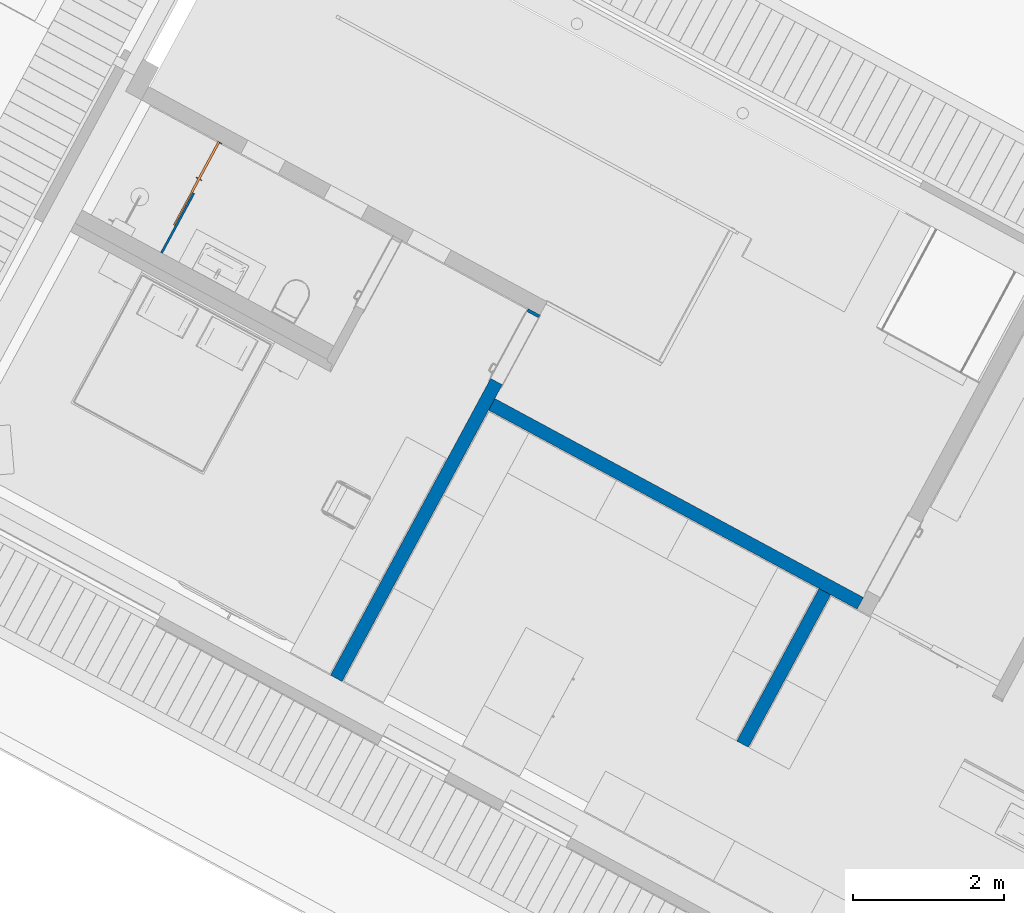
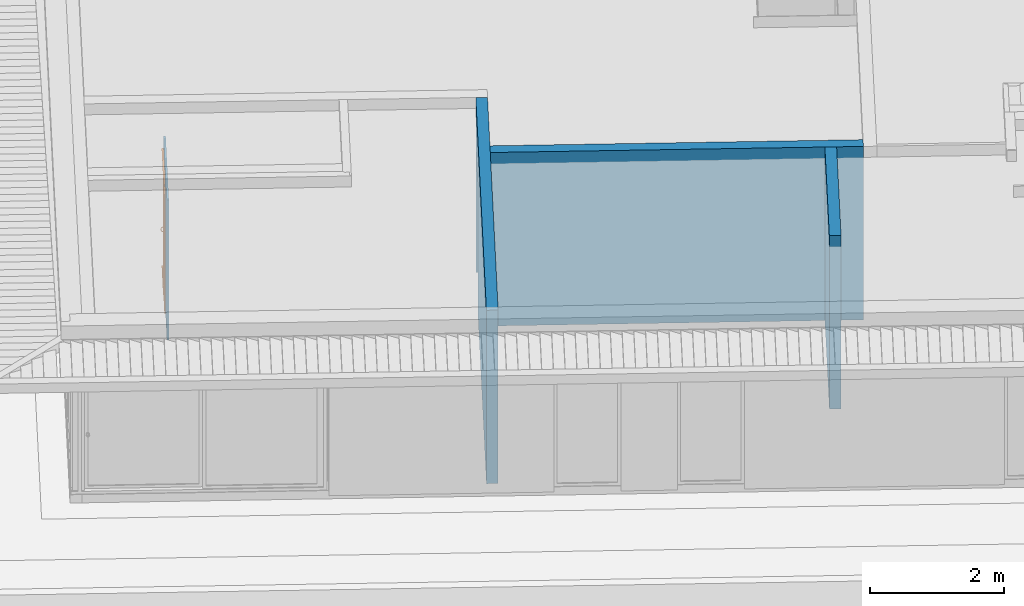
# One storey, part 8 of 48: 4 walls, 1 proxy, 2 openings.
"""IFC2X3 building model written with IfcOpenShell, lengths in metres."""

from ifc_helpers import new_model, entity, si_unit, converted_unit, derived_unit, money_unit, direction, frame, origin_with_axes, origin_2d_with_axis, place, context, subcontext, project, spatial, rectangle, extrude, faceted_brep, material, type_object, element, fill, save


model = new_model("IFC2X3")

# Units and contexts
model_context = context("Model", 3, precision=1e-05, world=origin_with_axes(), true_north=direction((0.0, 1.0)))
body_context = subcontext(model_context, "Body", "Model", "MODEL_VIEW")
ifc_project = project(units=[si_unit("LENGTHUNIT", "METRE"), si_unit("AREAUNIT", "SQUARE_METRE"), si_unit("VOLUMEUNIT", "CUBIC_METRE"), converted_unit("PLANEANGLEUNIT", "DEGREE", entity("IfcPlaneAngleMeasure", 0.0174532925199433), si_unit("PLANEANGLEUNIT", "RADIAN"), dimensions=[0, 0, 0, 0, 0, 0, 0]), money_unit("EUR"), converted_unit("TIMEUNIT", "Year", entity("IfcTimeMeasure", 31556926.0), si_unit("TIMEUNIT", "SECOND"), dimensions=[0, 0, 1, 0, 0, 0, 0]), si_unit("MASSUNIT", "GRAM", prefix="KILO"), si_unit("THERMODYNAMICTEMPERATUREUNIT", "DEGREE_CELSIUS"), si_unit("LUMINOUSINTENSITYUNIT", "LUMEN"), si_unit("ENERGYUNIT", "JOULE", prefix="MEGA"), derived_unit("THERMALCONDUCTANCEUNIT", [(si_unit("POWERUNIT", "WATT"), 1), (si_unit("LENGTHUNIT", "METRE"), -1), (si_unit("THERMODYNAMICTEMPERATUREUNIT", "KELVIN"), -1)]), derived_unit("SPECIFICHEATCAPACITYUNIT", [(si_unit("ENERGYUNIT", "JOULE"), 1), (si_unit("MASSUNIT", "GRAM", prefix="KILO"), -1), (si_unit("THERMODYNAMICTEMPERATUREUNIT", "KELVIN"), -1)]), derived_unit("MASSDENSITYUNIT", [(si_unit("MASSUNIT", "GRAM", prefix="KILO"), 1), (si_unit("VOLUMEUNIT", "CUBIC_METRE"), -1)])], contexts=[model_context])

# Site, building, storey
site_placement = place(None, frame((-3.949935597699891, 1.740105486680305, 0.0), z_axis=(0.0, 0.0, 1.0), x_axis=(0.8799804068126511, -0.475009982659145, 0.0)))
site = spatial("IfcSite", under=ifc_project, at=site_placement, Name="Gelände", CompositionType="ELEMENT")
building_placement = place(site_placement, origin_with_axes())
building = spatial("IfcBuilding", under=site, at=building_placement, Name="Gebäude", CompositionType="ELEMENT")
storey_placement = place(building_placement, frame((0.0, 0.0, 4.55), z_axis=(0.0, 0.0, 1.0), x_axis=(1.0, 0.0, 0.0)))
storey = spatial("IfcBuildingStorey", under=building, at=storey_placement, Name="Staffelgeschoss", CompositionType="ELEMENT", Elevation=4.55)

# Walls
ifc_material_1 = material(Name="_SIWH - MW Kalksandstein")
wall_type_1 = type_object("IfcWallType", Name="_SIWH - WI | KS 17,5 | 17,5cm 175", PredefinedType="NOTDEFINED")
wall_1_placement = place(storey_placement, frame((16.76849488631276, 3.418060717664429, -0.1900000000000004), z_axis=(0.0, 0.0, 1.0), x_axis=(0.0, 1.0, 0.0)))
element("IfcWall", 1, at=wall_1_placement, inside=storey, type_object=wall_type_1, material=ifc_material_1, Name="I-Wand014", context=body_context, shape_type="Brep", body=[
    faceted_brep([(2.300000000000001, 0.1750000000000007, 0.0), (2.300000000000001, 0.0, 0.0), (0.0, 0.0, 0.0), (0.0, 0.1750000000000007, 0.0), (2.300000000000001, 0.1750000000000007, 3.154), (2.300000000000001, 0.0, 3.154), (0.0, 0.0, 3.154), (0.0, 0.1750000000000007, 3.154)], [[[0, 1, 2, 3]], [[1, 0, 4, 5]], [[1, 5, 6, 2]], [[7, 3, 2, 6]], [[4, 0, 3, 7]], [[5, 4, 7, 6]]]),
])
wall_2_placement = place(storey_placement, frame((11.43319561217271, 5.893060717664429, -0.1900000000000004), z_axis=(0.0, 0.0, 1.0), x_axis=(1.0, 0.0, 0.0)))
element("IfcWall", 2, at=wall_2_placement, inside=storey, type_object=wall_type_1, material=ifc_material_1, Name="I-Wand015", context=body_context, shape_type="Brep", body=[
    faceted_brep([(5.734297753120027, -0.1749999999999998, 3.154), (5.734297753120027, 0.0, 3.154), (0.1750000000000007, 0.0, 3.154), (0.1750000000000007, -0.1749999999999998, 3.154), (5.734297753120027, -0.1749999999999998, 0.0), (5.734297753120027, 0.0, 0.0), (0.1750000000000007, 0.0, 0.0), (0.1750000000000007, -0.1749999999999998, 0.0)], [[[0, 1, 2, 3]], [[1, 0, 4, 5]], [[1, 5, 6, 2]], [[7, 3, 2, 6]], [[4, 0, 3, 7]], [[5, 4, 7, 6]]]),
])

# Wall, opening
wall_3_placement = place(storey_placement, frame((11.43319561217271, 7.153035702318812, -0.1900000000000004), z_axis=(0.0, 0.0, 1.0), x_axis=(0.0, -1.0, 0.0)))
wall_3 = element("IfcWall", 3, at=wall_3_placement, inside=storey, type_object=wall_type_1, material=ifc_material_1, Name="I-Wand016", context=body_context, shape_type="Brep", body=[
    faceted_brep([(1.051973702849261, 0.1749999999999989, 0.1900000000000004), (1.051973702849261, 0.1749999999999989, 2.325), (0.04197370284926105, 0.1749999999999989, 2.325), (0.04197370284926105, 0.1749999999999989, 0.1900000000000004), (0.04197370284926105, 0.1750000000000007, 0.0), (0.0, 0.1750000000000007, 0.0), (0.0, 0.1750000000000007, 3.154), (5.528048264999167, 0.1749999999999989, 3.154), (5.528048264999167, 0.1749999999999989, 0.0), (1.051973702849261, 0.1750000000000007, 0.0), (1.051973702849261, 0.0, 0.1900000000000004), (1.051973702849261, 0.0, 2.325), (0.04197370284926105, 0.0, 2.325), (0.04197370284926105, 0.0, 0.1900000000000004), (0.04197370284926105, 0.0, 0.0), (0.0, 0.0, 0.0), (0.0, 0.0, 3.154), (5.528048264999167, 0.0, 3.154), (5.528048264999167, 0.0, 0.0), (1.051973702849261, 0.0, 0.0)], [[[0, 1, 2, 3, 4, 5, 6, 7, 8, 9]], [[1, 0, 10, 11]], [[2, 1, 11, 12]], [[3, 2, 12, 13]], [[3, 13, 14, 4]], [[4, 14, 15, 5]], [[6, 5, 15, 16]], [[16, 17, 7, 6]], [[18, 8, 7, 17]], [[19, 9, 8, 18]], [[10, 0, 9, 19]], [[11, 10, 19, 18, 17, 16, 15, 14, 13, 12]]]),
])
opening_1_placement = place(wall_3_placement, frame((0.5469737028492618, 0.0, 0.1900000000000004), z_axis=(0.0, 0.0, 1.0), x_axis=(1.0, 0.0, 0.0)))
element("IfcOpeningElement", 4, at=opening_1_placement, cuts=wall_3, Name="Tür-017", context=body_context, shape_type="SweptSolid", body=[
    extrude(rectangle(XDim=1.01, YDim=2.135, at=origin_2d_with_axis()), frame((0.0, 0.1750000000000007, 1.0675), z_axis=(0.0, -1.0, 0.0), x_axis=(-1.0, 0.0, 0.0)), (0.0, 0.0, 1.0), 0.5249999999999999),
])

# Wall, opening, proxy
ifc_material_2 = material(Name="Glas, Normalglas-50% durchlässig")
wall_type_2 = type_object("IfcWallType", Name="Glas, Normalglas-50% durchlässig 30", PredefinedType="NOTDEFINED")
wall_4_placement = place(storey_placement, frame((6.782480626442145, 5.493065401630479, -0.2999999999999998), z_axis=(0.0, 0.0, 1.0), x_axis=(0.0, 1.0, 0.0)))
wall_4 = element("IfcWall", 5, at=wall_4_placement, inside=storey, type_object=wall_type_2, material=ifc_material_2, Name="L-Wand033", context=body_context, shape_type="Brep", body=[
    faceted_brep([(1.659970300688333, 0.0, 0.2999999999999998), (1.659970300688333, -0.03000000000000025, 0.2999999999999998), (1.659970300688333, -0.03000000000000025, 0.1100000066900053), (1.659970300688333, 0.0, 0.1100000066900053), (1.644994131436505, -0.03000000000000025, 0.2999999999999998), (1.644994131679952, 0.0, 0.2999999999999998), (1.644994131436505, -0.03000000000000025, 0.1099999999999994), (1.644994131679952, 0.0, 0.1099999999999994)], [[[0, 1, 2, 3]], [[4, 1, 0, 5]], [[1, 4, 6, 2]], [[7, 3, 2, 6]], [[5, 0, 3, 7]], [[4, 5, 7, 6]]]),
    faceted_brep([(0.8999703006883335, -0.03000000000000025, 0.2999999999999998), (0.8999703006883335, -0.03000000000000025, 2.435), (1.659970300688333, -0.03000000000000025, 2.435), (1.659970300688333, -0.03000000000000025, 2.654999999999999), (0.0, -0.03000000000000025, 2.654999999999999), (0.0, -0.03000000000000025, 0.1100000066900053), (0.8999703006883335, -0.03000000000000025, 0.1099999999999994), (0.8999703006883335, 0.0, 0.2999999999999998), (0.8999703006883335, 0.0, 2.435), (1.659970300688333, 0.0, 2.435), (1.659970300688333, 0.0, 2.654999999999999), (0.0, 0.0, 2.654999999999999), (0.0, 0.0, 0.1100000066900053), (0.8999703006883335, 0.0, 0.1099999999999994)], [[[0, 1, 2, 3, 4, 5, 6]], [[1, 0, 7, 8]], [[9, 2, 1, 8]], [[2, 9, 10, 3]], [[3, 10, 11, 4]], [[5, 4, 11, 12]], [[6, 5, 12, 13]], [[7, 0, 6, 13]], [[8, 7, 13, 12, 11, 10, 9]]]),
])
opening_2_placement = place(wall_4_placement, frame((1.279970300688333, 0.0, 0.2999999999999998), z_axis=(0.0, 0.0, 1.0), x_axis=(1.0, 0.0, 0.0)))
opening_2 = element("IfcOpeningElement", 6, at=opening_2_placement, cuts=wall_4, Name="Tür-017", context=body_context, shape_type="Brep", body=[
    faceted_brep([(-0.3799999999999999, 0.001000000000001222, 2.105), (-0.3799999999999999, 0.0, 2.105), (-0.3799999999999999, 0.0, 0.0), (-0.3799999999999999, -0.03100000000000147, 0.0), (-0.3799999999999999, -0.03100000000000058, 2.135), (-0.3799999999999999, 0.001000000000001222, 2.135), (-0.3799999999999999, 0.03000000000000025, 2.105), (-1.28, 0.03000000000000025, 2.105), (-1.28, 0.0, 2.105), (-1.28, 0.0, 0.0), (-0.3799999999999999, 0.001000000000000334, 0.0), (0.3799999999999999, 0.001000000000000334, 0.0), (0.3799999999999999, -0.03100000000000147, 0.0), (0.3799999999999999, -0.03100000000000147, 2.135), (0.3799999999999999, 0.001000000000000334, 2.135), (-0.3799999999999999, 0.03000000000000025, 0.0), (-1.28, 0.03000000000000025, 0.0)], [[[0, 1, 2, 3, 4, 5]], [[1, 0, 6, 7, 8]], [[2, 1, 8, 9]], [[2, 10, 11, 12, 3]], [[4, 3, 12, 13]], [[14, 5, 4, 13]], [[10, 0, 5, 14, 11]], [[0, 10, 15, 6]], [[7, 6, 15, 16]], [[8, 7, 16, 9]], [[10, 2, 9, 16, 15]], [[11, 14, 13, 12]]]),
])
building_element_proxy_type = type_object("IfcBuildingElementProxyType", Name="Schiebetür 02 1-Fl 26", PredefinedType="NOTDEFINED")
proxy_placement = place(opening_2_placement, frame((0.3799999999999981, 0.0, 0.0), z_axis=(0.0, 0.0, 1.0), x_axis=(-1.0, 0.0, 0.0)))
proxy = element("IfcBuildingElementProxy", 7, at=proxy_placement, inside=storey, type_object=building_element_proxy_type, Name="Tür-017", context=body_context, shape_type="Brep", body=[
    faceted_brep([(4.999999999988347e-05, 0.0, 0.0), (4.999999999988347e-05, 0.0, 0.003000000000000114), (0.7599499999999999, 0.0, 0.003000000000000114), (0.7599499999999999, 0.0, 0.0), (4.999999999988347e-05, -0.03000000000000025, 0.0), (4.999999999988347e-05, -0.03000000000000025, 0.003000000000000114), (0.7599499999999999, -0.03000000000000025, 0.003000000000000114), (0.7599499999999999, -0.03000000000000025, 0.0)], [[[0, 1, 2, 3]], [[0, 4, 5, 1]], [[1, 5, 6, 2]], [[3, 2, 6, 7]], [[4, 0, 3, 7]], [[5, 4, 7, 6]]]),
    faceted_brep([(4.999999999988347e-05, 0.0, 2.134899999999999), (4.999999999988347e-05, -0.03000000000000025, 2.134899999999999), (0.7599499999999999, -0.03000000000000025, 2.134899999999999), (0.7599499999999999, 0.0, 2.134899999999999), (4.999999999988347e-05, 0.0, 2.124899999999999), (4.999999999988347e-05, -0.003000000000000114, 2.124899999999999), (4.999999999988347e-05, -0.003000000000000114, 2.131899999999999), (4.999999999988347e-05, -0.02700000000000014, 2.131899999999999), (4.999999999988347e-05, -0.02700000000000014, 2.124899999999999), (4.999999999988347e-05, -0.03000000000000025, 2.124899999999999), (0.7599499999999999, -0.03000000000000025, 2.124899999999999), (0.7599499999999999, -0.02700000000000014, 2.124899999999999), (0.7599499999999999, -0.02700000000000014, 2.131899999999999), (0.7599499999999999, -0.003000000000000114, 2.131899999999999), (0.7599499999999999, -0.003000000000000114, 2.124899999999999), (0.7599499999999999, 0.0, 2.124899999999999)], [[[0, 1, 2, 3]], [[0, 4, 5, 6, 7, 8, 9, 1]], [[1, 9, 10, 2]], [[3, 2, 10, 11, 12, 13, 14, 15]], [[4, 0, 3, 15]], [[5, 4, 15, 14]], [[6, 5, 14, 13]], [[7, 6, 13, 12]], [[8, 7, 12, 11]], [[9, 8, 11, 10]]]),
    faceted_brep([(1.25995, -0.004999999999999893, 0.1029999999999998), (1.25995, -0.02500000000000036, 0.1029999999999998), (1.15995, -0.02500000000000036, 0.1029999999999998), (1.15995, -0.004999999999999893, 0.1029999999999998), (1.25995, -0.004999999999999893, 2.031899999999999), (1.25995, -0.02500000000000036, 2.031899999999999), (1.15995, -0.02500000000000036, 2.031899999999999), (1.15995, -0.004999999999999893, 2.031899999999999)], [[[0, 1, 2, 3]], [[4, 5, 1, 0]], [[1, 5, 6, 2]], [[3, 2, 6, 7]], [[0, 3, 7, 4]], [[7, 6, 5, 4]]]),
    faceted_brep([(0.5000499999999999, -0.004999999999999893, 2.031899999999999), (0.5000499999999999, -0.02500000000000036, 2.031899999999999), (0.6000499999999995, -0.02500000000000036, 2.031899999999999), (0.6000499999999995, -0.004999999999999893, 2.031899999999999), (0.5000499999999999, -0.004999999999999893, 0.1029999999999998), (0.5000499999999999, -0.02500000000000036, 0.1029999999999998), (0.6000499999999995, -0.02500000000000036, 0.1029999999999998), (0.6000499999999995, -0.004999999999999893, 0.1029999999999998)], [[[0, 1, 2, 3]], [[4, 5, 1, 0]], [[1, 5, 6, 2]], [[3, 2, 6, 7]], [[0, 3, 7, 4]], [[7, 6, 5, 4]]]),
    faceted_brep([(0.5000499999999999, -0.004999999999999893, 0.003000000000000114), (0.5000499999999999, -0.02500000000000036, 0.003000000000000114), (0.5000499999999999, -0.02500000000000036, 0.1029999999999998), (0.5000499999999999, -0.004999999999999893, 0.1029999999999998), (1.25995, -0.004999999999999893, 0.003000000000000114), (1.25995, -0.02500000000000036, 0.003000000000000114), (1.25995, -0.02500000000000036, 0.1029999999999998), (1.15995, -0.02500000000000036, 0.1029999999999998), (0.6000499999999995, -0.02500000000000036, 0.1029999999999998), (0.6000499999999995, -0.004999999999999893, 0.1029999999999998), (1.15995, -0.004999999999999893, 0.1029999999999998), (1.25995, -0.004999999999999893, 0.1029999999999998)], [[[0, 1, 2, 3]], [[4, 5, 1, 0]], [[1, 5, 6, 7, 8, 2]], [[3, 2, 8, 9]], [[0, 3, 9, 10, 11, 4]], [[11, 6, 5, 4]], [[10, 7, 6, 11]], [[9, 8, 7, 10]]]),
    faceted_brep([(1.25995, -0.004999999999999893, 2.131899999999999), (1.25995, -0.02500000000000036, 2.131899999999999), (1.25995, -0.02500000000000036, 2.031899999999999), (1.25995, -0.004999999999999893, 2.031899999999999), (0.5000499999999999, -0.004999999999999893, 2.131899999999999), (0.5000499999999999, -0.02500000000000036, 2.131899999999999), (0.5000499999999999, -0.02500000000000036, 2.031899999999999), (0.6000499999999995, -0.02500000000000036, 2.031899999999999), (1.15995, -0.02500000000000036, 2.031899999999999), (1.15995, -0.004999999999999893, 2.031899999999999), (0.6000499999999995, -0.004999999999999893, 2.031899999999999), (0.5000499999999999, -0.004999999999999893, 2.031899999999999)], [[[0, 1, 2, 3]], [[4, 5, 1, 0]], [[1, 5, 6, 7, 8, 2]], [[3, 2, 8, 9]], [[0, 3, 9, 10, 11, 4]], [[11, 6, 5, 4]], [[10, 7, 6, 11]], [[9, 8, 7, 10]]]),
    faceted_brep([(1.15995, -0.01149999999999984, 0.1029999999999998), (1.15995, -0.01850000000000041, 0.1029999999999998), (0.6000499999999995, -0.01850000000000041, 0.1029999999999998), (0.6000499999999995, -0.01149999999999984, 0.1029999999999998), (1.15995, -0.01149999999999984, 2.0379), (1.15995, -0.01850000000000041, 2.0379), (0.6000499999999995, -0.01850000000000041, 2.0379), (0.6000499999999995, -0.01149999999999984, 2.0379)], [[[0, 1, 2, 3]], [[4, 5, 1, 0]], [[1, 5, 6, 2]], [[3, 2, 6, 7]], [[0, 3, 7, 4]], [[7, 6, 5, 4]]]),
    faceted_brep([(0.56705, -0.04000000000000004, 1.088980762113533), (0.56705, -0.02500000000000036, 1.093), (0.5661121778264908, -0.02500000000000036, 1.0965), (0.5661121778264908, -0.0417500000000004, 1.092011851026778), (0.5661121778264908, -0.03824999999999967, 1.085949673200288), (0.5661121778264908, -0.02500000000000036, 1.0895), (0.5635500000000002, -0.02500000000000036, 1.086937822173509), (0.5600499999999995, -0.02500000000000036, 1.085999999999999), (0.5565499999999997, -0.02500000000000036, 1.086937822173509), (0.5539878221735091, -0.02500000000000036, 1.0895), (0.5530499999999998, -0.02500000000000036, 1.093), (0.5539878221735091, -0.02500000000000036, 1.0965), (0.5565499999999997, -0.02500000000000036, 1.099062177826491), (0.5600499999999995, -0.02500000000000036, 1.1), (0.5635500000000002, -0.02500000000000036, 1.099062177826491), (0.5635500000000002, -0.0430310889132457, 1.094230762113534), (0.56705, -0.0509807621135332, 1.078), (0.5661121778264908, -0.05401185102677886, 1.07975), (0.5635500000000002, -0.03696891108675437, 1.083730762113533), (0.5661121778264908, -0.04794967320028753, 1.07625), (0.5600499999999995, -0.0365000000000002, 1.082918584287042), (0.5565499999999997, -0.03696891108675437, 1.083730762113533), (0.5539878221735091, -0.03824999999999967, 1.085949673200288), (0.5530499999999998, -0.04000000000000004, 1.088980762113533), (0.5539878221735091, -0.0417500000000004, 1.092011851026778), (0.5565499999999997, -0.0430310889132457, 1.094230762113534), (0.5600499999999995, -0.04349999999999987, 1.095042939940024), (0.5635500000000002, -0.05623076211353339, 1.081031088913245), (0.56705, -0.05499999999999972, 1.063), (0.5661121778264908, -0.05850000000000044, 1.063), (0.5635500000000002, -0.045730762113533, 1.074968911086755), (0.5661121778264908, -0.05149999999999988, 1.063), (0.5600499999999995, -0.04491858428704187, 1.0745), (0.5565499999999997, -0.045730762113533, 1.074968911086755), (0.5539878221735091, -0.04794967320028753, 1.07625), (0.5530499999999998, -0.0509807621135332, 1.078), (0.5539878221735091, -0.05401185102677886, 1.07975), (0.5565499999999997, -0.05623076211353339, 1.081031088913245), (0.5600499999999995, -0.05704293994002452, 1.0815), (0.5635500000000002, -0.06106217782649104, 1.063), (0.5600499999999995, -0.06200000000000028, 1.063), (0.5565499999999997, -0.06106217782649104, 1.063), (0.5539878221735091, -0.05850000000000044, 1.063), (0.5530499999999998, -0.05499999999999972, 1.063), (0.5539878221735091, -0.05149999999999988, 1.063), (0.5565499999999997, -0.04893782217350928, 1.063), (0.5600499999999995, -0.04800000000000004, 1.063), (0.5635500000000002, -0.04893782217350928, 1.063)], [[[0, 1, 2, 3]], [[4, 5, 1, 0]], [[1, 5, 6, 7, 8, 9, 10, 11, 12, 13, 14, 2]], [[3, 2, 14, 15]], [[16, 0, 3, 17]], [[18, 6, 5, 4]], [[19, 4, 0, 16]], [[20, 7, 6, 18]], [[21, 8, 7, 20]], [[22, 9, 8, 21]], [[23, 10, 9, 22]], [[24, 11, 10, 23]], [[25, 12, 11, 24]], [[26, 13, 12, 25]], [[15, 14, 13, 26]], [[17, 3, 15, 27]], [[28, 16, 17, 29]], [[30, 18, 4, 19]], [[31, 19, 16, 28]], [[32, 20, 18, 30]], [[33, 21, 20, 32]], [[34, 22, 21, 33]], [[35, 23, 22, 34]], [[36, 24, 23, 35]], [[37, 25, 24, 36]], [[38, 26, 25, 37]], [[27, 15, 26, 38]], [[29, 17, 27, 39]], [[28, 29, 39, 40, 41, 42, 43, 44, 45, 46, 47, 31]], [[47, 30, 19, 31]], [[46, 32, 30, 47]], [[45, 33, 32, 46]], [[44, 34, 33, 45]], [[43, 35, 34, 44]], [[42, 36, 35, 43]], [[41, 37, 36, 42]], [[40, 38, 37, 41]], [[39, 27, 38, 40]]]),
    faceted_brep([(0.5530499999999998, -0.04000000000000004, 1.017019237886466), (0.5530499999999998, -0.02500000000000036, 1.013), (0.5539878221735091, -0.02500000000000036, 1.0095), (0.5539878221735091, -0.0417500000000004, 1.013988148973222), (0.5539878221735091, -0.03824999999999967, 1.020050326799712), (0.5539878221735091, -0.02500000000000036, 1.0165), (0.5565499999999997, -0.02500000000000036, 1.019062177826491), (0.5600499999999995, -0.02500000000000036, 1.02), (0.5635500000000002, -0.02500000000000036, 1.019062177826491), (0.5661121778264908, -0.02500000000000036, 1.0165), (0.56705, -0.02500000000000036, 1.013), (0.5661121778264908, -0.02500000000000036, 1.0095), (0.5635500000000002, -0.02500000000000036, 1.006937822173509), (0.5600499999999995, -0.02500000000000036, 1.006), (0.5565499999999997, -0.02500000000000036, 1.006937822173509), (0.5565499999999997, -0.0430310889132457, 1.011769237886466), (0.5530499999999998, -0.0509807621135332, 1.028), (0.5539878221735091, -0.05401185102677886, 1.02625), (0.5565499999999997, -0.03696891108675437, 1.022269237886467), (0.5539878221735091, -0.04794967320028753, 1.02975), (0.5600499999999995, -0.0365000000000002, 1.023081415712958), (0.5635500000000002, -0.03696891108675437, 1.022269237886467), (0.5661121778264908, -0.03824999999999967, 1.020050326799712), (0.56705, -0.04000000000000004, 1.017019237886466), (0.5661121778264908, -0.0417500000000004, 1.013988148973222), (0.5635500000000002, -0.0430310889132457, 1.011769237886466), (0.5600499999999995, -0.04349999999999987, 1.010957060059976), (0.5565499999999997, -0.05623076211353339, 1.024968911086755), (0.5530499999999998, -0.05499999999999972, 1.043), (0.5539878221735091, -0.05850000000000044, 1.043), (0.5565499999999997, -0.045730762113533, 1.031031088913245), (0.5539878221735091, -0.05149999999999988, 1.043), (0.5600499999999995, -0.04491858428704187, 1.0315), (0.5635500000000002, -0.045730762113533, 1.031031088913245), (0.5661121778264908, -0.04794967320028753, 1.02975), (0.56705, -0.0509807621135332, 1.028), (0.5661121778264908, -0.05401185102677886, 1.02625), (0.5635500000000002, -0.05623076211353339, 1.024968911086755), (0.5600499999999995, -0.05704293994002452, 1.0245), (0.5565499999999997, -0.06106217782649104, 1.043), (0.5600499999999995, -0.06200000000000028, 1.043), (0.5635500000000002, -0.06106217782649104, 1.043), (0.5661121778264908, -0.05850000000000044, 1.043), (0.56705, -0.05499999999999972, 1.043), (0.5661121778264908, -0.05149999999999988, 1.043), (0.5635500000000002, -0.04893782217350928, 1.043), (0.5600499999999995, -0.04800000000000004, 1.043), (0.5565499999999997, -0.04893782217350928, 1.043)], [[[0, 1, 2, 3]], [[4, 5, 1, 0]], [[1, 5, 6, 7, 8, 9, 10, 11, 12, 13, 14, 2]], [[3, 2, 14, 15]], [[16, 0, 3, 17]], [[18, 6, 5, 4]], [[19, 4, 0, 16]], [[20, 7, 6, 18]], [[21, 8, 7, 20]], [[22, 9, 8, 21]], [[23, 10, 9, 22]], [[24, 11, 10, 23]], [[25, 12, 11, 24]], [[26, 13, 12, 25]], [[15, 14, 13, 26]], [[17, 3, 15, 27]], [[28, 16, 17, 29]], [[30, 18, 4, 19]], [[31, 19, 16, 28]], [[32, 20, 18, 30]], [[33, 21, 20, 32]], [[34, 22, 21, 33]], [[35, 23, 22, 34]], [[36, 24, 23, 35]], [[37, 25, 24, 36]], [[38, 26, 25, 37]], [[27, 15, 26, 38]], [[29, 17, 27, 39]], [[28, 29, 39, 40, 41, 42, 43, 44, 45, 46, 47, 31]], [[47, 30, 19, 31]], [[46, 32, 30, 47]], [[45, 33, 32, 46]], [[44, 34, 33, 45]], [[43, 35, 34, 44]], [[42, 36, 35, 43]], [[41, 37, 36, 42]], [[40, 38, 37, 41]], [[39, 27, 38, 40]]]),
    faceted_brep([(0.56705, -0.05499999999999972, 1.043), (0.5661121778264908, -0.05149999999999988, 1.043), (0.5661121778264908, -0.05149999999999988, 1.063), (0.56705, -0.05499999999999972, 1.063), (0.5661121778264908, -0.05850000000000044, 1.043), (0.5635500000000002, -0.06106217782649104, 1.043), (0.5600499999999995, -0.06200000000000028, 1.043), (0.5565499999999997, -0.06106217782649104, 1.043), (0.5539878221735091, -0.05850000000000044, 1.043), (0.5530499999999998, -0.05499999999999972, 1.043), (0.5539878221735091, -0.05149999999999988, 1.043), (0.5565499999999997, -0.04893782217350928, 1.043), (0.5600499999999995, -0.04800000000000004, 1.043), (0.5635500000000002, -0.04893782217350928, 1.043), (0.5635500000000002, -0.04893782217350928, 1.063), (0.5600499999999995, -0.04800000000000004, 1.063), (0.5565499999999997, -0.04893782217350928, 1.063), (0.5539878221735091, -0.05149999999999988, 1.063), (0.5530499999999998, -0.05499999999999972, 1.063), (0.5539878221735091, -0.05850000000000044, 1.063), (0.5565499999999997, -0.06106217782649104, 1.063), (0.5600499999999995, -0.06200000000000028, 1.063), (0.5635500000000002, -0.06106217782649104, 1.063), (0.5661121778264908, -0.05850000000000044, 1.063)], [[[0, 1, 2, 3]], [[0, 4, 5, 6, 7, 8, 9, 10, 11, 12, 13, 1]], [[1, 13, 14, 2]], [[3, 2, 14, 15, 16, 17, 18, 19, 20, 21, 22, 23]], [[4, 0, 3, 23]], [[5, 4, 23, 22]], [[6, 5, 22, 21]], [[7, 6, 21, 20]], [[8, 7, 20, 19]], [[9, 8, 19, 18]], [[10, 9, 18, 17]], [[11, 10, 17, 16]], [[12, 11, 16, 15]], [[13, 12, 15, 14]]]),
    faceted_brep([(0.56705, 0.009999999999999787, 1.088980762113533), (0.5661121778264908, 0.01175000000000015, 1.092011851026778), (0.5661121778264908, -0.004999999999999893, 1.0965), (0.56705, -0.004999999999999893, 1.093), (0.56705, 0.02098076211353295, 1.078), (0.5661121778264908, 0.02401185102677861, 1.07975), (0.5635500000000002, 0.01303108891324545, 1.094230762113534), (0.5635500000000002, -0.004999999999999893, 1.099062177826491), (0.5600499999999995, -0.004999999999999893, 1.1), (0.5565499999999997, -0.004999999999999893, 1.099062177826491), (0.5539878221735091, -0.004999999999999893, 1.0965), (0.5530499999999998, -0.004999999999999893, 1.093), (0.5539878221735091, -0.004999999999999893, 1.0895), (0.5565499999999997, -0.004999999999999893, 1.086937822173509), (0.5600499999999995, -0.004999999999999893, 1.085999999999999), (0.5635500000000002, -0.004999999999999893, 1.086937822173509), (0.5661121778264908, -0.004999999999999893, 1.0895), (0.5661121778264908, 0.008250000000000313, 1.085949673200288), (0.56705, 0.02499999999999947, 1.063), (0.5661121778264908, 0.02850000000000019, 1.063), (0.5635500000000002, 0.02623076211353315, 1.081031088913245), (0.5661121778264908, 0.01794967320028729, 1.07625), (0.5600499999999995, 0.01349999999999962, 1.095042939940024), (0.5565499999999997, 0.01303108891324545, 1.094230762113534), (0.5539878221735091, 0.01175000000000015, 1.092011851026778), (0.5530499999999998, 0.009999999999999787, 1.088980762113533), (0.5539878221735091, 0.008250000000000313, 1.085949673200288), (0.5565499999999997, 0.006968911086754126, 1.083730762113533), (0.5600499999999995, 0.00649999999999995, 1.082918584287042), (0.5635500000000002, 0.006968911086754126, 1.083730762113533), (0.5661121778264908, 0.02149999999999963, 1.063), (0.5635500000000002, 0.01893782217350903, 1.063), (0.5600499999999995, 0.01799999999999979, 1.063), (0.5565499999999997, 0.01893782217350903, 1.063), (0.5539878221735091, 0.02149999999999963, 1.063), (0.5530499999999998, 0.02499999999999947, 1.063), (0.5539878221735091, 0.02850000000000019, 1.063), (0.5565499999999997, 0.03106217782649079, 1.063), (0.5600499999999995, 0.03200000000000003, 1.063), (0.5635500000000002, 0.03106217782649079, 1.063), (0.5600499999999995, 0.02704293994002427, 1.0815), (0.5635500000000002, 0.01573076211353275, 1.074968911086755), (0.5565499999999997, 0.02623076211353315, 1.081031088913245), (0.5539878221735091, 0.02401185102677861, 1.07975), (0.5530499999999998, 0.02098076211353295, 1.078), (0.5539878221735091, 0.01794967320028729, 1.07625), (0.5565499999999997, 0.01573076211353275, 1.074968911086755), (0.5600499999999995, 0.01491858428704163, 1.0745)], [[[0, 1, 2, 3]], [[4, 5, 1, 0]], [[1, 6, 7, 2]], [[3, 2, 7, 8, 9, 10, 11, 12, 13, 14, 15, 16]], [[17, 0, 3, 16]], [[18, 19, 5, 4]], [[5, 20, 6, 1]], [[21, 4, 0, 17]], [[6, 22, 8, 7]], [[22, 23, 9, 8]], [[23, 24, 10, 9]], [[24, 25, 11, 10]], [[25, 26, 12, 11]], [[26, 27, 13, 12]], [[27, 28, 14, 13]], [[28, 29, 15, 14]], [[29, 17, 16, 15]], [[18, 30, 31, 32, 33, 34, 35, 36, 37, 38, 39, 19]], [[19, 39, 20, 5]], [[30, 18, 4, 21]], [[20, 40, 22, 6]], [[41, 21, 17, 29]], [[40, 42, 23, 22]], [[42, 43, 24, 23]], [[43, 44, 25, 24]], [[44, 45, 26, 25]], [[45, 46, 27, 26]], [[46, 47, 28, 27]], [[47, 41, 29, 28]], [[31, 30, 21, 41]], [[32, 31, 41, 47]], [[33, 32, 47, 46]], [[34, 33, 46, 45]], [[35, 34, 45, 44]], [[36, 35, 44, 43]], [[37, 36, 43, 42]], [[38, 37, 42, 40]], [[39, 38, 40, 20]]]),
    faceted_brep([(0.5530499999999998, 0.009999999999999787, 1.017019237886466), (0.5539878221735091, 0.01175000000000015, 1.013988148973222), (0.5539878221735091, -0.004999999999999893, 1.0095), (0.5530499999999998, -0.004999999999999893, 1.013), (0.5530499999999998, 0.02098076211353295, 1.028), (0.5539878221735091, 0.02401185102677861, 1.02625), (0.5565499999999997, 0.01303108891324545, 1.011769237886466), (0.5565499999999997, -0.004999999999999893, 1.006937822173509), (0.5600499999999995, -0.004999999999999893, 1.006), (0.5635500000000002, -0.004999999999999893, 1.006937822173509), (0.5661121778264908, -0.004999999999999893, 1.0095), (0.56705, -0.004999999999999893, 1.013), (0.5661121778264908, -0.004999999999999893, 1.0165), (0.5635500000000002, -0.004999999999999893, 1.019062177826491), (0.5600499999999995, -0.004999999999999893, 1.02), (0.5565499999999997, -0.004999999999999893, 1.019062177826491), (0.5539878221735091, -0.004999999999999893, 1.0165), (0.5539878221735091, 0.008250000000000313, 1.020050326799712), (0.5530499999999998, 0.02499999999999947, 1.043), (0.5539878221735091, 0.02850000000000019, 1.043), (0.5565499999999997, 0.02623076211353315, 1.024968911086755), (0.5539878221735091, 0.01794967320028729, 1.02975), (0.5600499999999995, 0.01349999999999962, 1.010957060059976), (0.5635500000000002, 0.01303108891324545, 1.011769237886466), (0.5661121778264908, 0.01175000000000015, 1.013988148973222), (0.56705, 0.009999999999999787, 1.017019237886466), (0.5661121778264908, 0.008250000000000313, 1.020050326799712), (0.5635500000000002, 0.006968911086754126, 1.022269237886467), (0.5600499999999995, 0.00649999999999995, 1.023081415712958), (0.5565499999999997, 0.006968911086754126, 1.022269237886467), (0.5539878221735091, 0.02149999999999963, 1.043), (0.5565499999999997, 0.01893782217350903, 1.043), (0.5600499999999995, 0.01799999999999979, 1.043), (0.5635500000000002, 0.01893782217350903, 1.043), (0.5661121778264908, 0.02149999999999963, 1.043), (0.56705, 0.02499999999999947, 1.043), (0.5661121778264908, 0.02850000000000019, 1.043), (0.5635500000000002, 0.03106217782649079, 1.043), (0.5600499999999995, 0.03200000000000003, 1.043), (0.5565499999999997, 0.03106217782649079, 1.043), (0.5600499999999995, 0.02704293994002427, 1.0245), (0.5565499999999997, 0.01573076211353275, 1.031031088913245), (0.5635500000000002, 0.02623076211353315, 1.024968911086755), (0.5661121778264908, 0.02401185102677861, 1.02625), (0.56705, 0.02098076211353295, 1.028), (0.5661121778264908, 0.01794967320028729, 1.02975), (0.5635500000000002, 0.01573076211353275, 1.031031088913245), (0.5600499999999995, 0.01491858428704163, 1.0315)], [[[0, 1, 2, 3]], [[4, 5, 1, 0]], [[1, 6, 7, 2]], [[3, 2, 7, 8, 9, 10, 11, 12, 13, 14, 15, 16]], [[17, 0, 3, 16]], [[18, 19, 5, 4]], [[5, 20, 6, 1]], [[21, 4, 0, 17]], [[6, 22, 8, 7]], [[22, 23, 9, 8]], [[23, 24, 10, 9]], [[24, 25, 11, 10]], [[25, 26, 12, 11]], [[26, 27, 13, 12]], [[27, 28, 14, 13]], [[28, 29, 15, 14]], [[29, 17, 16, 15]], [[18, 30, 31, 32, 33, 34, 35, 36, 37, 38, 39, 19]], [[19, 39, 20, 5]], [[30, 18, 4, 21]], [[20, 40, 22, 6]], [[41, 21, 17, 29]], [[40, 42, 23, 22]], [[42, 43, 24, 23]], [[43, 44, 25, 24]], [[44, 45, 26, 25]], [[45, 46, 27, 26]], [[46, 47, 28, 27]], [[47, 41, 29, 28]], [[31, 30, 21, 41]], [[32, 31, 41, 47]], [[33, 32, 47, 46]], [[34, 33, 46, 45]], [[35, 34, 45, 44]], [[36, 35, 44, 43]], [[37, 36, 43, 42]], [[38, 37, 42, 40]], [[39, 38, 40, 20]]]),
    faceted_brep([(0.56705, 0.02499999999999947, 1.043), (0.56705, 0.02499999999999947, 1.063), (0.5661121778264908, 0.02149999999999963, 1.063), (0.5661121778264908, 0.02149999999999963, 1.043), (0.5661121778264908, 0.02850000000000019, 1.043), (0.5661121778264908, 0.02850000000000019, 1.063), (0.5635500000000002, 0.03106217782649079, 1.063), (0.5600499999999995, 0.03200000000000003, 1.063), (0.5565499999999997, 0.03106217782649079, 1.063), (0.5539878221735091, 0.02850000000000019, 1.063), (0.5530499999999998, 0.02499999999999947, 1.063), (0.5539878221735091, 0.02149999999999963, 1.063), (0.5565499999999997, 0.01893782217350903, 1.063), (0.5600499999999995, 0.01799999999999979, 1.063), (0.5635500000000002, 0.01893782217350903, 1.063), (0.5635500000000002, 0.01893782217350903, 1.043), (0.5600499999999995, 0.01799999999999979, 1.043), (0.5565499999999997, 0.01893782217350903, 1.043), (0.5539878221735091, 0.02149999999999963, 1.043), (0.5530499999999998, 0.02499999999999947, 1.043), (0.5539878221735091, 0.02850000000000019, 1.043), (0.5565499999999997, 0.03106217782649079, 1.043), (0.5600499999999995, 0.03200000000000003, 1.043), (0.5635500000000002, 0.03106217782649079, 1.043)], [[[0, 1, 2, 3]], [[4, 5, 1, 0]], [[1, 5, 6, 7, 8, 9, 10, 11, 12, 13, 14, 2]], [[3, 2, 14, 15]], [[0, 3, 15, 16, 17, 18, 19, 20, 21, 22, 23, 4]], [[23, 6, 5, 4]], [[22, 7, 6, 23]], [[21, 8, 7, 22]], [[20, 9, 8, 21]], [[19, 10, 9, 20]], [[18, 11, 10, 19]], [[17, 12, 11, 18]], [[16, 13, 12, 17]], [[15, 14, 13, 16]]]),
])
fill(opening_2, proxy)

save(model, "model.ifc")
